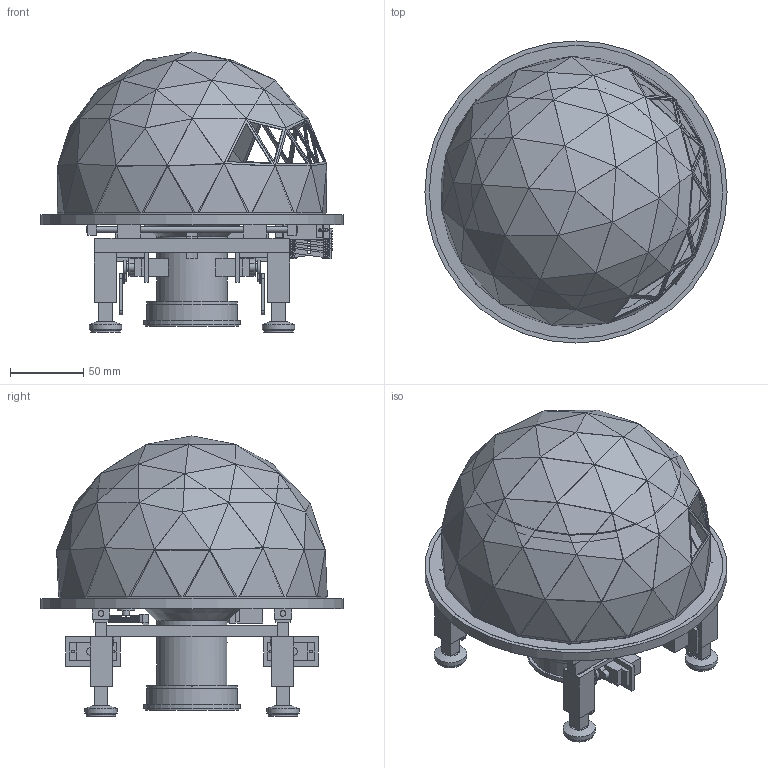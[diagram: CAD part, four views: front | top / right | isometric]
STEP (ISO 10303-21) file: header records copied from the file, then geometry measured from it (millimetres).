
FILE_DESCRIPTION(('FreeCAD Model'),'2;1');
FILE_NAME('Open CASCADE Shape Model','2026-10-10T21:47:52',('Author'),( ''),'Open CASCADE STEP processor 7.8','FreeCAD','Unknown');
FILE_SCHEMA(('AUTOMOTIVE_DESIGN { 1 0 10303 214 1 1 1 1 }'));
Length unit declared in the file: millimetre
Products named in the file (73): SG90_Walking_Castle; Платформа; Купол_нижняя_часть; Купол_крышка; Колонна; Серво_поворота_SG90; Серво_челнока_SG90; Шестерня_челнока_m1_z20; Лоток_электроники; Стержень_направляющей_Ø4x144_L; Стержень_направляющей_Ø4x144_R; АКБ_2S_18650_в_держателе; ESP32_DevKitC; Понижающий_DC-DC_Mini560_5V_5A; Конденсатор_1000мкФ; Выключатель; Кронштейн_лестницы; Серво_лестницы_SG90; Лестница_звено_a_0_L; Лестница_звено_b_0_L; Лестница_звено_a_1_L; Лестница_звено_b_1_L; Лестница_звено_a_2_L; Лестница_звено_b_2_L; Лестница_звено_a_3_L; Лестница_звено_b_3_L; Лестница_звено_a_4_L; Лестница_звено_b_4_L; Лестница_звено_a_0_R; Лестница_звено_b_0_R; Лестница_звено_a_1_R; Лестница_звено_b_1_R; Лестница_звено_a_2_R; Лестница_звено_b_2_R; Лестница_звено_a_3_R; Лестница_звено_b_3_R; Лестница_звено_a_4_R; Лестница_звено_b_4_R; Лестница_ступень_1; Лестница_ступень_2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
Assembly tree (72 placements, depth 2):
  SG90_Walking_Castle
    Платформа
    Купол_нижняя_часть
    Купол_крышка
    Колонна
    Серво_поворота_SG90
    Серво_челнока_SG90
    Шестерня_челнока_m1_z20
    Лоток_электроники
    Стержень_направляющей_Ø4x144_L
    Стержень_направляющей_Ø4x144_R
    АКБ_2S_18650_в_держателе
    ESP32_DevKitC
    Понижающий_DC-DC_Mini560_5V_5A
    Конденсатор_1000мкФ
    Выключатель
    Кронштейн_лестницы
    Серво_лестницы_SG90
    Лестница_звено_a_0_L
    Лестница_звено_b_0_L
    Лестница_звено_a_1_L
    Лестница_звено_b_1_L
    Лестница_звено_a_2_L
    Лестница_звено_b_2_L
    Лестница_звено_a_3_L
    Лестница_звено_b_3_L
    Лестница_звено_a_4_L
    Лестница_звено_b_4_L
    Лестница_звено_a_0_R
    Лестница_звено_b_0_R
    Лестница_звено_a_1_R
    Лестница_звено_b_1_R
    Лестница_звено_a_2_R
    Лестница_звено_b_2_R
    Лестница_звено_a_3_R
    Лестница_звено_b_3_R
    Лестница_звено_a_4_R
    Лестница_звено_b_4_R
    Лестница_ступень_1
    Лестница_ступень_2
    Лестница_ступень_3
    Лестница_ступень_4
    Лестница_ступень_5
    Опорная_плита
    Фиксатор_плиты_1
    Фиксатор_плиты_2
    Резина_плиты
    Рама_ног
    Рейка_челнока
    Корпус_ноги_ПЛ
    Серво_подъёма_SG90_ПЛ
    Ползун_стопа_ПЛ
    Накладка_TPU_ПЛ
    Кривошип_ПЛ
    Тяга_ПЛ
    Корпус_ноги_ПП
    Серво_подъёма_SG90_ПП
    Ползун_стопа_ПП
    Накладка_TPU_ПП
    Кривошип_ПП
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Bounding box: 206 x 206 x 190.94 mm (x, y, z)
Volume: 457395.7 mm3; surface area: 394548.5 mm2
Topology: 72 solids, 72 shells, 2429 faces, 6226 edges, 3899 vertices
Faces by surface type: plane 1813, cylinder 311, bspline 297, cone 8
Full cylindrical faces by diameter (mm): 1.6 x37, 2 x14, 2.2 x91, 2.6 x1, 3.3 x8, 3.9 x4, 4 x2, 4.6 x4, 4.8 x7, 5.2 x4, 5.6 x1, 6 x5, 10 x2, 14 x1, 20 x1, 22 x1, 37 x1, 45 x2, 46 x1, 48.2 x2, 50 x1, 54 x1, 55 x1, 62 x1, 64 x1, 66 x1, 70 x1, 200 x1, 206 x1
Entity records: 74471 total; most frequent: CARTESIAN_POINT 15885, ORIENTED_EDGE 12452, DIRECTION 10863, EDGE_CURVE 6226, LINE 4467, VECTOR 4467, VERTEX_POINT 3899, AXIS2_PLACEMENT_3D 3198
